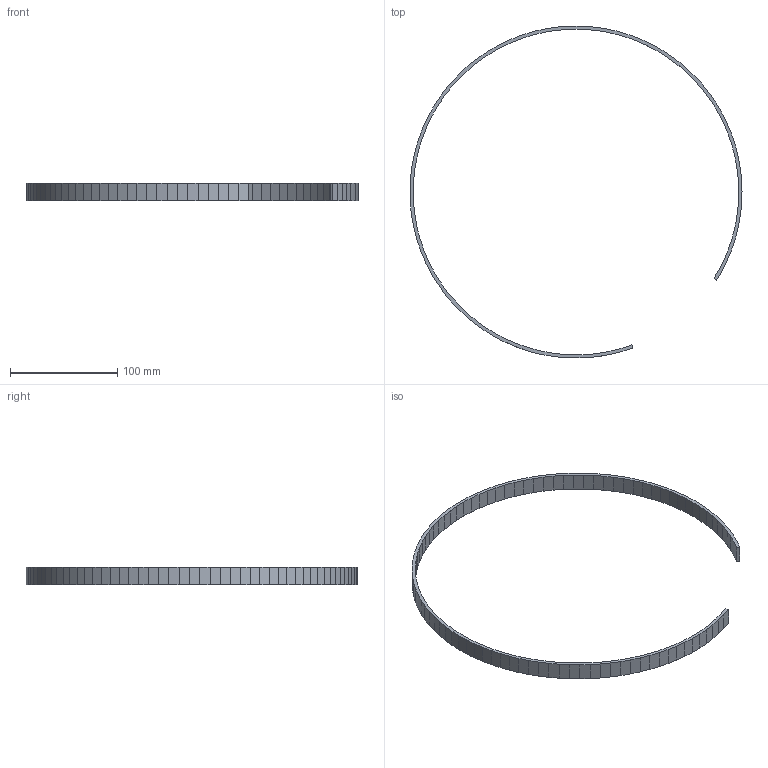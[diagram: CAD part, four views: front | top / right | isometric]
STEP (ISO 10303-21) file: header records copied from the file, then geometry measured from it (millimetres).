
FILE_DESCRIPTION(('Open CASCADE Model'),'2;1');
FILE_NAME('Open CASCADE Shape Model','2026-10-04T02:31:34',('Author'),( 'Open CASCADE'),'Open CASCADE STEP processor 8.0','Open CASCADE 8.0' ,'Unknown');
FILE_SCHEMA(('AUTOMOTIVE_DESIGN { 1 0 10303 214 1 1 1 1 }'));
Length unit declared in the file: millimetre
Products named in the file (1): Open CASCADE STEP translator 8.0 23
Bounding box: 309.98 x 309.95 x 16 mm (x, y, z)
Volume: 41381 mm3; surface area: 32869.4 mm2
Topology: 1 solids, 1 shells, 184 faces, 546 edges, 364 vertices
Faces by surface type: plane 184
Entity records: 13138 total; most frequent: CARTESIAN_POINT 2187, DIRECTION 2008, LINE 1638, VECTOR 1638, ORIENTED_EDGE 1092, PCURVE 1092, DEFINITIONAL_REPRESENTATION 1092, EDGE_CURVE 546
